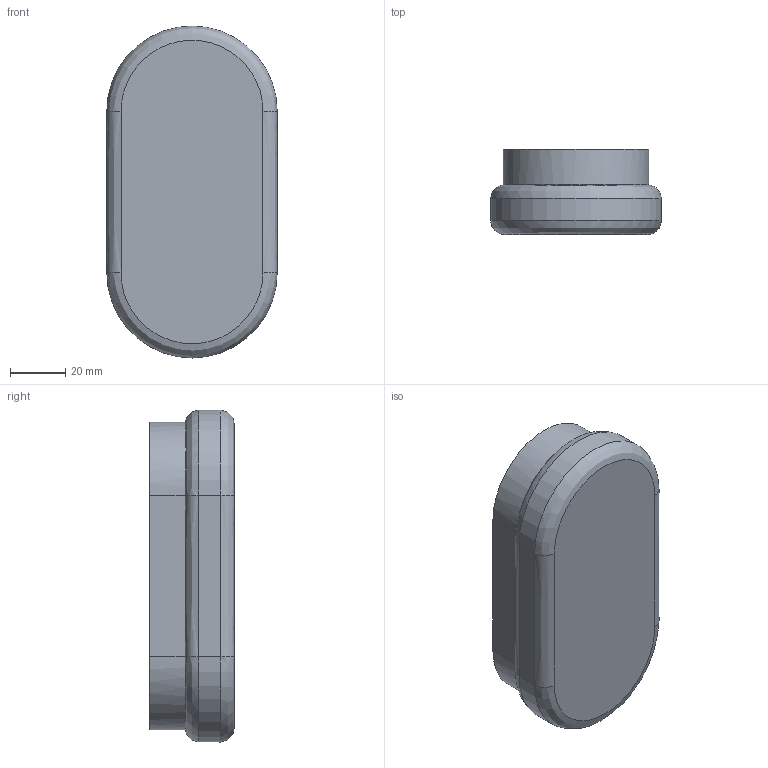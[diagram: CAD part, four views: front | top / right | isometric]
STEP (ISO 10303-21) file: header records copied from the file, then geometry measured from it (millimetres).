
FILE_DESCRIPTION((''),'2;1');
FILE_NAME('GTC01-A-MPF01_PRT','2008-06-30T',('GRA'),(''),'PRO/ENGINEER BY PARAMETRIC TECHNOLOGY CORPORATION, 2006170','PRO/ENGINEER BY PARAMETRIC TECHNOLOGY CORPORATION, 2006170','');
FILE_SCHEMA(('CONFIG_CONTROL_DESIGN'));
Length unit declared in the file: millimetre
Products named in the file (1): GTC01-A-MPF01_PRT
Bounding box: 62 x 30.9 x 120.7 mm (x, y, z)
Volume: 2170.6 mm3; surface area: 57800.4 mm2
Topology: 1 solids, 10 shells, 176 faces, 414 edges, 252 vertices
Faces by surface type: bspline 67, plane 55, cylinder 34, extrusion 12, cone 8
Entity records: 11713 total; most frequent: CARTESIAN_POINT 8141, ORIENTED_EDGE 776, DIRECTION 558, EDGE_CURVE 414, VERTEX_POINT 252, VECTOR 194, EDGE_LOOP 189, LINE 182
